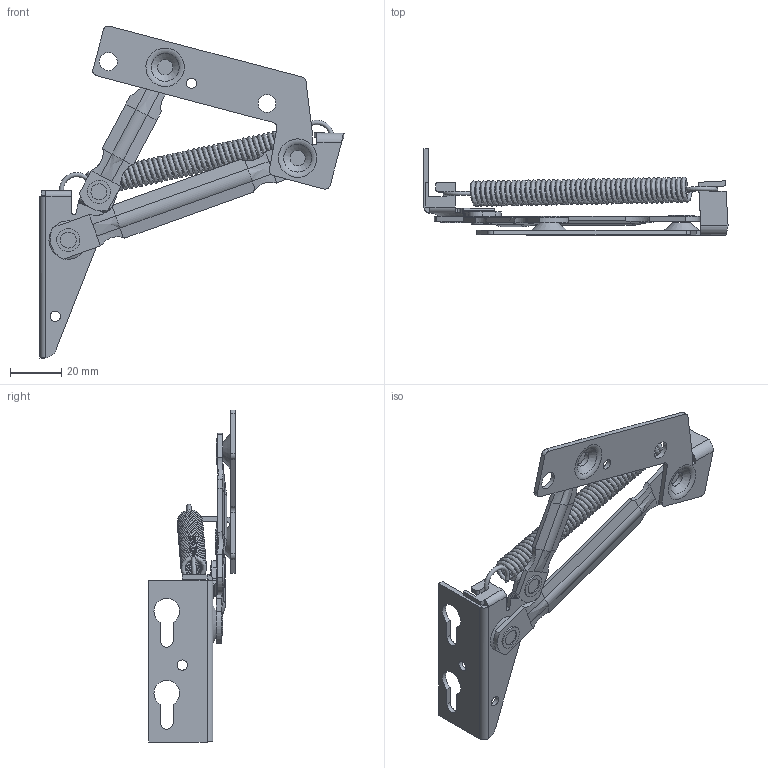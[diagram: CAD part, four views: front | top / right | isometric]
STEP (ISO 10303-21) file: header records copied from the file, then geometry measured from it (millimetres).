
FILE_DESCRIPTION(/* description */ (''),/* implementation_level */ '2;1');
FILE_NAME(/* name */ 'C:\Users\dmitruk\Documents\WORK\Подъемники\Подъемники\Юниор.stp',/* time_stamp */ '2022-08-03T14:57:40+03:00',/* author */ ('dmitruk'),/* organization */ (''),/* preprocessor_version */ 'ST-DEVELOPER v16.5',/* originating_system */ 'Autodesk Inventor 2017',/* authorisation */ '');
FILE_SCHEMA (('AUTOMOTIVE_DESIGN { 1 0 10303 214 3 1 1 }'));
Length unit declared in the file: millimetre
Products named in the file (6): Юниор; Юниор_1; Юниор_2; Юниор_3; Юниор_4; Юниор_5
Assembly tree (5 placements, depth 2):
  Юниор
    Юниор_1
    Юниор_2
    Юниор_3
    Юниор_4
    Юниор_5
Bounding box: 118.55 x 33.68 x 129.47 mm (x, y, z)
Volume: 15427.1 mm3; surface area: 22522.9 mm2
Topology: 5 solids, 5 shells, 233 faces, 569 edges, 349 vertices
Faces by surface type: plane 113, cylinder 64, bspline 45, cone 6, torus 5
Full cylindrical faces by diameter (mm): 4 x3, 6.025 x2, 6.256 x2, 7 x2, 8 x1, 9 x2, 10 x5
Entity records: 13185 total; most frequent: CARTESIAN_POINT 7857, ORIENTED_EDGE 1060, DIRECTION 1027, EDGE_CURVE 530, AXIS2_PLACEMENT_3D 350, VERTEX_POINT 346, LINE 327, VECTOR 327
